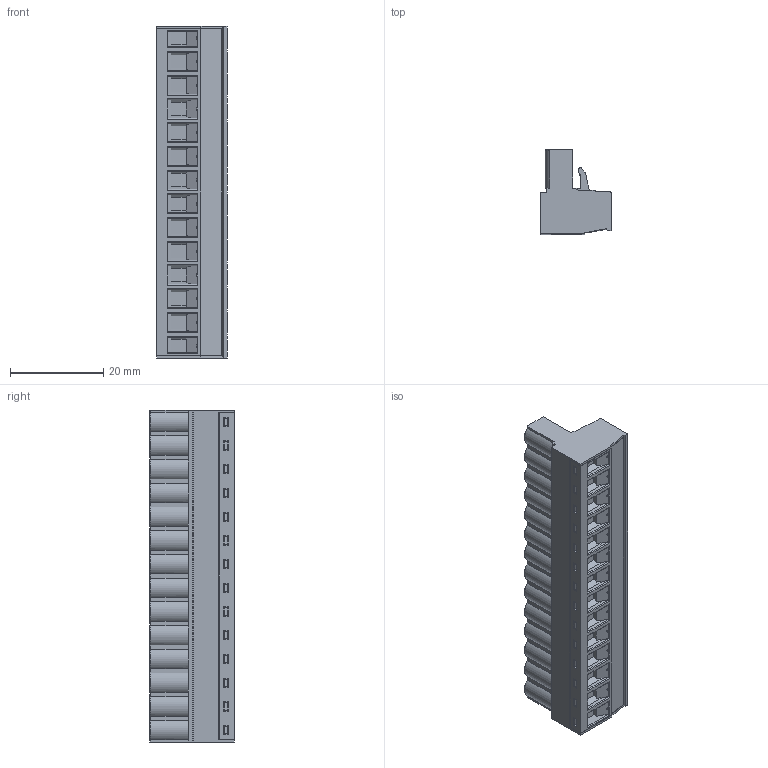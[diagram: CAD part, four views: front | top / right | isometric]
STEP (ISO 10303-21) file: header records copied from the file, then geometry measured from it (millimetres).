
FILE_DESCRIPTION (( 'STEP AP203' ), '1' );
FILE_NAME ('BR8F1-14.STEP', '2020-03-04T02:15:22', ( '' ), ( '' ), 'SwSTEP 2.0', 'SolidWorks 2019', '' );
FILE_SCHEMA (( 'CONFIG_CONTROL_DESIGN' ));
Products named in the file (1): BR8F1-14
Bounding box: 15.05 x 18.1 x 71.12 mm (x, y, z)
Volume: 11296.5 mm3; surface area: 9344.9 mm2
Topology: 1 solids, 1 shells, 1819 faces, 4837 edges, 3104 vertices
Faces by surface type: plane 1117, cylinder 450, cone 112, torus 84, sphere 56
Entity records: 57393 total; most frequent: CARTESIAN_POINT 11602, ORIENTED_EDGE 9674, DIRECTION 9299, EDGE_CURVE 4837, LINE 3507, VECTOR 3507, VERTEX_POINT 3104, AXIS2_PLACEMENT_3D 2896
